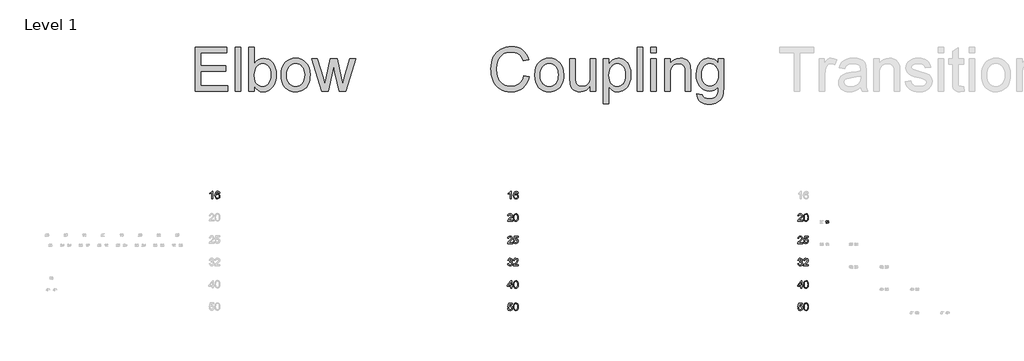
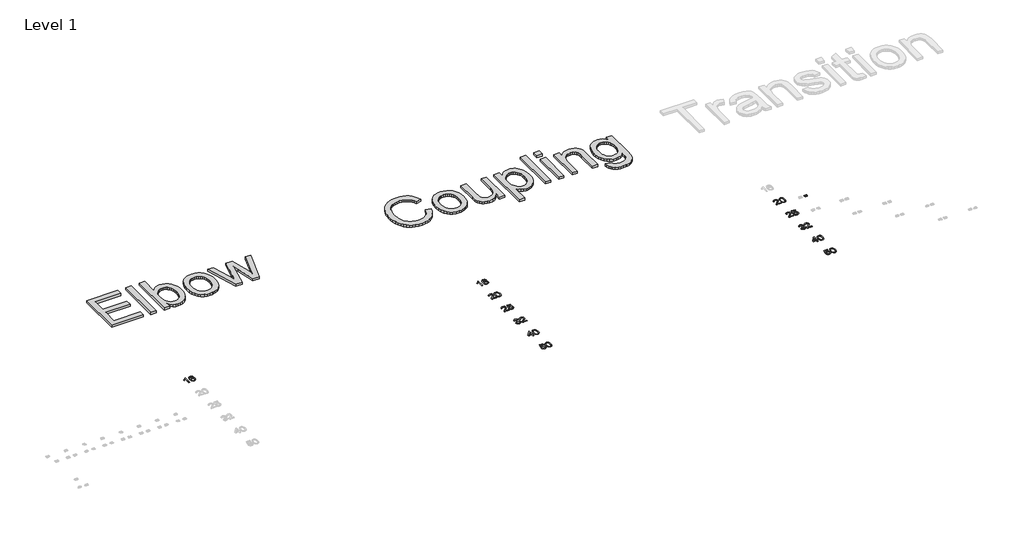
# One storey, part 39 of 58: 15 proxies.
"""IFC4 building model written with IfcOpenShell, lengths in millimetres."""

from ifc_helpers import new_model, si_unit, frame, origin, place, context, project, spatial, polyline, outline, extrude, element, save

model = new_model("IFC4")

# Units and contexts
model_context = context("Model", 3, world=origin())
ifc_project = project(units=[si_unit("LENGTHUNIT", "METRE", prefix="MILLI")], contexts=[model_context])

# Site, building, storey
site = spatial("IfcSite", under=ifc_project)
building = spatial("IfcBuilding", under=site)
storey = spatial("IfcBuildingStorey", under=building, Name="Level 1", Elevation=27.3876384)

# Proxies
placement = place(None, origin())
element("IfcBuildingElementProxy", 1, Name="100mm Arial", ObjectType="100mm Arial", at=placement, inside=storey, context=model_context, shape_type="SweptSolid", body=[
    extrude(outline(polyline([(21091.5703727, 30140.2967064), (21079.0133339, 30140.2967064), (21079.0133339, 30218.5819949), (21067.1184827, 30210.1084463), (21053.8992564, 30203.7686133), (21053.8992564, 30215.638939), (21072.3056189, 30227.3866373), (21083.4769688, 30240.7530165), (21091.5703727, 30240.7530165), (21091.5703727, 30140.2967064)])), frame((0.0, 0.0, 27.3876384), z_axis=(0.0, 0.0, 1.0), x_axis=(1.0, 0.0, 0.0)), (0.0, 0.0, 1.0), 2.0),
    extrude(outline(polyline([(21185.7481635, 30214.0693091), (21173.1911247, 30212.4996793), (21168.4331842, 30222.9720534), (21155.85162, 30228.1959777), (21144.5208545, 30225.1548199), (21135.949204, 30213.7382153), (21132.3807487, 30191.3587273), (21143.4539967, 30201.3773803), (21157.1759952, 30204.65153), (21168.7765407, 30202.4135812), (21178.5131509, 30195.6997348), (21185.1166327, 30185.4419585), (21187.3177933, 30172.5722201), (21183.1729895, 30155.2449781), (21171.7686476, 30142.9822449), (21155.3120597, 30138.7270765), (21141.0658295, 30141.5475051), (21129.7197356, 30150.008791), (21122.2977163, 30164.9448), (21119.8237099, 30187.189398), (21122.5705621, 30212.1992423), (21130.8111188, 30229.2996237), (21142.0621765, 30237.8896683), (21156.6364349, 30240.7530165), (21167.6545007, 30238.9810516), (21176.4775372, 30233.6651567), (21182.6579547, 30225.2222649), (21185.7481635, 30214.0693091)]), holes=[polyline([(21132.3807487, 30172.7684238), (21135.2870164, 30161.8913795), (21143.0125383, 30153.9941793), (21154.3310411, 30151.2841153), (21162.617583, 30152.6881982), (21169.13216, 30156.9004471), (21173.3536059, 30163.522323), (21174.7607545, 30172.1552871), (21173.372, 30180.4418291), (21169.2057364, 30186.7602023), (21162.5807948, 30190.760919), (21153.8160063, 30192.0944913), (21138.6224799, 30186.7602023), (21133.9411815, 30180.5951132), (21132.3807487, 30172.7684238)])]), frame((0.0, 0.0, 27.3876384), z_axis=(0.0, 0.0, 1.0), x_axis=(1.0, 0.0, 0.0)), (0.0, 0.0, 1.0), 2.0),
])
element("IfcBuildingElementProxy", 2, Name="100mm Arial", ObjectType="100mm Arial", at=placement, inside=storey, context=model_context, shape_type="SweptSolid", body=[
    extrude(outline(polyline([(21108.836301, 29852.8537451), (21108.836301, 29840.2967064), (21042.9118475, 29840.2967064), (21044.2607481, 29848.954196), (21051.8881681, 29862.2837869), (21067.6089921, 29876.8396512), (21089.2895043, 29897.759874), (21094.7096324, 29911.9846445), (21089.5960726, 29923.4993509), (21076.2419562, 29928.1959777), (21062.3237541, 29923.6097155), (21057.0385161, 29910.9300494), (21044.4814773, 29912.4996793), (21047.5257008, 29924.6459165), (21054.1077228, 29933.5180039), (21063.8841869, 29938.9442634), (21076.5117363, 29940.7530165), (21089.2312563, 29938.7419283), (21098.9893263, 29932.7086635), (21105.1973349, 29923.6955547), (21107.2666711, 29912.7449339), (21105.0348537, 29900.83782), (21097.6159001, 29888.5260359), (21079.6264706, 29871.3214213), (21065.1809709, 29859.2426291), (21059.5155882, 29852.8537451), (21108.836301, 29852.8537451)])), frame((0.0, 0.0, 27.3876384), z_axis=(0.0, 0.0, 1.0), x_axis=(1.0, 0.0, 0.0)), (0.0, 0.0, 1.0), 2.0),
    extrude(outline(polyline([(21121.3933398, 29889.715521), (21125.0844224, 29918.6187831), (21136.0473059, 29935.2838375), (21154.3555665, 29940.7530165), (21169.0217954, 29937.5156549), (21179.150813, 29928.183715), (21185.0369249, 29913.3212824), (21187.3177933, 29889.715521), (21183.6634988, 29860.9348863), (21172.7374036, 29844.2330437), (21164.5060439, 29840.1035683), (21154.3555665, 29838.7270765), (21141.3080184, 29841.1183095), (21131.39973, 29848.2920084), (21123.8949373, 29865.2820252), (21121.3933398, 29889.715521)]), holes=[polyline([(21133.9503785, 29889.7400465), (21135.4219065, 29869.987849), (21139.8364905, 29858.555916), (21146.4093154, 29853.1020655), (21154.3555665, 29851.2841153), (21162.3018176, 29853.1081968), (21168.8746426, 29858.5804415), (21173.2892265, 29870.0185059), (21174.7607545, 29889.7400465), (21173.3382775, 29909.0477199), (21169.0708463, 29920.5685577), (21162.5102841, 29926.2891227), (21154.2084137, 29928.1959777), (21146.3480018, 29926.5159833), (21140.0326942, 29921.476), (21135.4709574, 29909.2377923), (21133.9503785, 29889.7400465)])]), frame((0.0, 0.0, 27.3876384), z_axis=(0.0, 0.0, 1.0), x_axis=(1.0, 0.0, 0.0)), (0.0, 0.0, 1.0), 2.0),
])
element("IfcBuildingElementProxy", 3, Name="100mm Arial", ObjectType="100mm Arial", at=placement, inside=storey, context=model_context, shape_type="SweptSolid", body=[
    extrude(outline(polyline([(21108.836301, 29552.8537451), (21108.836301, 29540.2967064), (21042.9118475, 29540.2967064), (21044.2607481, 29548.954196), (21051.8881681, 29562.2837869), (21067.6089921, 29576.8396512), (21089.2895043, 29597.759874), (21094.7096324, 29611.9846445), (21089.5960726, 29623.4993509), (21076.2419562, 29628.1959777), (21062.3237541, 29623.6097155), (21057.0385161, 29610.9300494), (21044.4814773, 29612.4996793), (21047.5257008, 29624.6459165), (21054.1077228, 29633.5180039), (21063.8841869, 29638.9442634), (21076.5117363, 29640.7530165), (21089.2312563, 29638.7419283), (21098.9893263, 29632.7086635), (21105.1973349, 29623.6955547), (21107.2666711, 29612.7449339), (21105.0348537, 29600.83782), (21097.6159001, 29588.5260359), (21079.6264706, 29571.3214213), (21065.1809709, 29559.2426291), (21059.5155882, 29552.8537451), (21108.836301, 29552.8537451)])), frame((0.0, 0.0, 27.3876384), z_axis=(0.0, 0.0, 1.0), x_axis=(1.0, 0.0, 0.0)), (0.0, 0.0, 1.0), 2.0),
    extrude(outline(polyline([(21121.3933398, 29566.9804137), (21133.9503785, 29568.5500436), (21140.2779488, 29555.6128601), (21153.3990733, 29551.2841153), (21162.3999195, 29552.7893658), (21169.1444227, 29557.3051173), (21173.3566716, 29564.3102036), (21174.7607545, 29573.2834586), (21169.500042, 29588.1949421), (21162.8934945, 29592.2968264), (21153.5952771, 29593.6641211), (21142.57108, 29591.4813546), (21135.5200084, 29585.8159719), (21122.9629696, 29587.3856017), (21133.9503785, 29639.1833867), (21182.6089038, 29639.1833867), (21182.6089038, 29626.6263479), (21144.1039216, 29626.6263479), (21138.7328445, 29598.9616219), (21147.7030338, 29604.4062754), (21157.1024188, 29606.2211599), (21168.8347887, 29603.9709484), (21178.5744645, 29597.2203137), (21185.1319611, 29586.9318806), (21187.3177933, 29574.0682735), (21185.3496246, 29561.5112347), (21179.4451186, 29550.7690805), (21168.1388786, 29541.7375775), (21153.3500224, 29538.7270765), (21141.0167785, 29540.6615227), (21131.1912636, 29546.4648611), (21124.4559574, 29555.4626416), (21121.3933398, 29566.9804137)])), frame((0.0, 0.0, 27.3876384), z_axis=(0.0, 0.0, 1.0), x_axis=(1.0, 0.0, 0.0)), (0.0, 0.0, 1.0), 2.0),
])
element("IfcBuildingElementProxy", 4, Name="100mm Arial", ObjectType="100mm Arial", at=placement, inside=storey, context=model_context, shape_type="SweptSolid", body=[
    extrude(outline(polyline([(21044.4814773, 29266.9804137), (21057.0385161, 29268.5500436), (21063.9669603, 29255.3308172), (21076.9286693, 29251.2841153), (21085.537108, 29252.6759355), (21092.1835093, 29256.8513961), (21097.8488921, 29270.6347082), (21092.2325603, 29283.6209427), (21077.9587389, 29288.7590279), (21069.1540964, 29287.3856017), (21070.552048, 29299.9426405), (21072.5631363, 29299.7954877), (21086.8124322, 29303.4007313), (21091.55811, 29307.9747307), (21093.1400025, 29314.486242), (21088.5537403, 29324.3086913), (21076.7324655, 29328.1959777), (21064.764038, 29324.2719031), (21058.6081459, 29312.4996793), (21046.0511071, 29314.0693091), (21049.7483212, 29325.3448923), (21056.3272775, 29333.7632586), (21065.3281237, 29339.005577), (21076.2910072, 29340.7530165), (21091.4354826, 29337.3071885), (21102.0304841, 29327.8894094), (21105.6970413, 29315.222006), (21102.2144251, 29303.6459859), (21091.9137292, 29295.3318528), (21105.5989394, 29286.7479396), (21110.4059308, 29270.413979), (21108.0024351, 29258.1757713), (21100.791948, 29247.9486519), (21089.9087723, 29241.0324703), (21076.4872109, 29238.7270765), (21064.347105, 29240.6952452), (21054.4633421, 29246.5997512), (21047.5900802, 29255.6312542), (21044.4814773, 29266.9804137)])), frame((0.0, 0.0, 27.3876384), z_axis=(0.0, 0.0, 1.0), x_axis=(1.0, 0.0, 0.0)), (0.0, 0.0, 1.0), 2.0),
    extrude(outline(polyline([(21185.7481635, 29252.8537451), (21185.7481635, 29240.2967064), (21119.8237099, 29240.2967064), (21121.1726106, 29248.954196), (21128.8000306, 29262.2837869), (21144.5208545, 29276.8396512), (21166.2013668, 29297.759874), (21171.6214948, 29311.9846445), (21166.5079351, 29323.4993509), (21153.1538187, 29328.1959777), (21139.2356165, 29323.6097155), (21133.9503785, 29310.9300494), (21121.3933398, 29312.4996793), (21124.4375633, 29324.6459165), (21131.0195853, 29333.5180039), (21140.7960493, 29338.9442634), (21153.4235988, 29340.7530165), (21166.1431188, 29338.7419283), (21175.9011887, 29332.7086635), (21182.1091974, 29323.6955547), (21184.1785336, 29312.7449339), (21181.9467162, 29300.83782), (21174.5277626, 29288.5260359), (21156.538333, 29271.3214213), (21142.0928334, 29259.2426291), (21136.4274506, 29252.8537451), (21185.7481635, 29252.8537451)])), frame((0.0, 0.0, 27.3876384), z_axis=(0.0, 0.0, 1.0), x_axis=(1.0, 0.0, 0.0)), (0.0, 0.0, 1.0), 2.0),
])
element("IfcBuildingElementProxy", 5, Name="100mm Arial", ObjectType="100mm Arial", at=placement, inside=storey, context=model_context, shape_type="SweptSolid", body=[
    extrude(outline(polyline([(21085.2918533, 28940.2967064), (21085.2918533, 28963.841154), (21039.7725878, 28963.841154), (21039.7725878, 28976.3981928), (21088.431113, 29039.1833867), (21097.8488921, 29039.1833867), (21097.8488921, 28976.3981928), (21110.4059308, 28976.3981928), (21110.4059308, 28963.841154), (21097.8488921, 28963.841154), (21097.8488921, 28940.2967064), (21085.2918533, 28940.2967064)]), holes=[polyline([(21085.2918533, 28976.3981928), (21085.2918533, 29015.1974806), (21055.2236316, 28976.3981928), (21085.2918533, 28976.3981928)])]), frame((0.0, 0.0, 27.3876384), z_axis=(0.0, 0.0, 1.0), x_axis=(1.0, 0.0, 0.0)), (0.0, 0.0, 1.0), 2.0),
    extrude(outline(polyline([(21121.3933398, 28989.715521), (21125.0844224, 29018.6187831), (21136.0473059, 29035.2838375), (21154.3555665, 29040.7530165), (21169.0217954, 29037.5156549), (21179.150813, 29028.183715), (21185.0369249, 29013.3212824), (21187.3177933, 28989.715521), (21183.6634988, 28960.9348863), (21172.7374036, 28944.2330437), (21164.5060439, 28940.1035683), (21154.3555665, 28938.7270765), (21141.3080184, 28941.1183095), (21131.39973, 28948.2920084), (21123.8949373, 28965.2820252), (21121.3933398, 28989.715521)]), holes=[polyline([(21133.9503785, 28989.7400465), (21135.4219065, 28969.987849), (21139.8364905, 28958.555916), (21146.4093154, 28953.1020655), (21154.3555665, 28951.2841153), (21162.3018176, 28953.1081968), (21168.8746426, 28958.5804415), (21173.2892265, 28970.0185059), (21174.7607545, 28989.7400465), (21173.3382775, 29009.0477199), (21169.0708463, 29020.5685577), (21162.5102841, 29026.2891227), (21154.2084137, 29028.1959777), (21146.3480018, 29026.5159833), (21140.0326942, 29021.476), (21135.4709574, 29009.2377923), (21133.9503785, 28989.7400465)])]), frame((0.0, 0.0, 27.3876384), z_axis=(0.0, 0.0, 1.0), x_axis=(1.0, 0.0, 0.0)), (0.0, 0.0, 1.0), 2.0),
])
element("IfcBuildingElementProxy", 6, Name="100mm Arial", ObjectType="100mm Arial", at=placement, inside=storey, context=model_context, shape_type="SweptSolid", body=[
    extrude(outline(polyline([(21044.4814773, 28666.9804137), (21057.0385161, 28668.5500436), (21063.3660864, 28655.6128601), (21076.4872109, 28651.2841153), (21085.488057, 28652.7893658), (21092.2325603, 28657.3051173), (21096.4448091, 28664.3102036), (21097.8488921, 28673.2834586), (21092.5881795, 28688.1949421), (21085.981632, 28692.2968264), (21076.6834146, 28693.6641211), (21065.6592175, 28691.4813546), (21058.6081459, 28685.8159719), (21046.0511071, 28687.3856017), (21057.0385161, 28739.1833867), (21105.6970413, 28739.1833867), (21105.6970413, 28726.6263479), (21067.1920591, 28726.6263479), (21061.820982, 28698.9616219), (21070.7911713, 28704.4062754), (21080.1905563, 28706.2211599), (21091.9229263, 28703.9709484), (21101.6626021, 28697.2203137), (21108.2200987, 28686.9318806), (21110.4059308, 28674.0682735), (21108.4377622, 28661.5112347), (21102.5332561, 28650.7690805), (21091.2270162, 28641.7375775), (21076.43816, 28638.7270765), (21064.1049161, 28640.6615227), (21054.2794011, 28646.4648611), (21047.5440949, 28655.4626416), (21044.4814773, 28666.9804137)])), frame((0.0, 0.0, 27.3876384), z_axis=(0.0, 0.0, 1.0), x_axis=(1.0, 0.0, 0.0)), (0.0, 0.0, 1.0), 2.0),
    extrude(outline(polyline([(21121.3933398, 28689.715521), (21125.0844224, 28718.6187831), (21136.0473059, 28735.2838375), (21154.3555665, 28740.7530165), (21169.0217954, 28737.5156549), (21179.150813, 28728.183715), (21185.0369249, 28713.3212824), (21187.3177933, 28689.715521), (21183.6634988, 28660.9348863), (21172.7374036, 28644.2330437), (21164.5060439, 28640.1035683), (21154.3555665, 28638.7270765), (21141.3080184, 28641.1183095), (21131.39973, 28648.2920084), (21123.8949373, 28665.2820252), (21121.3933398, 28689.715521)]), holes=[polyline([(21133.9503785, 28689.7400465), (21135.4219065, 28669.987849), (21139.8364905, 28658.555916), (21146.4093154, 28653.1020655), (21154.3555665, 28651.2841153), (21162.3018176, 28653.1081968), (21168.8746426, 28658.5804415), (21173.2892265, 28670.0185059), (21174.7607545, 28689.7400465), (21173.3382775, 28709.0477199), (21169.0708463, 28720.5685577), (21162.5102841, 28726.2891227), (21154.2084137, 28728.1959777), (21146.3480018, 28726.5159833), (21140.0326942, 28721.476), (21135.4709574, 28709.2377923), (21133.9503785, 28689.7400465)])]), frame((0.0, 0.0, 27.3876384), z_axis=(0.0, 0.0, 1.0), x_axis=(1.0, 0.0, 0.0)), (0.0, 0.0, 1.0), 2.0),
])
element("IfcBuildingElementProxy", 7, Name="100mm Arial", ObjectType="100mm Arial", at=placement, inside=storey, context=model_context, shape_type="SweptSolid", body=[
    extrude(outline(polyline([(25008.836301, 29852.8537451), (25008.836301, 29840.2967064), (24942.9118475, 29840.2967064), (24944.2607481, 29848.954196), (24951.8881681, 29862.2837869), (24967.6089921, 29876.8396512), (24989.2895043, 29897.759874), (24994.7096324, 29911.9846445), (24989.5960726, 29923.4993509), (24976.2419562, 29928.1959777), (24962.3237541, 29923.6097155), (24957.0385161, 29910.9300494), (24944.4814773, 29912.4996793), (24947.5257008, 29924.6459165), (24954.1077228, 29933.5180039), (24963.8841869, 29938.9442634), (24976.5117363, 29940.7530165), (24989.2312563, 29938.7419283), (24998.9893263, 29932.7086635), (25005.1973349, 29923.6955547), (25007.2666711, 29912.7449339), (25005.0348537, 29900.83782), (24997.6159001, 29888.5260359), (24979.6264706, 29871.3214213), (24965.1809709, 29859.2426291), (24959.5155882, 29852.8537451), (25008.836301, 29852.8537451)])), frame((0.0, 0.0, 27.3876384), z_axis=(0.0, 0.0, 1.0), x_axis=(1.0, 0.0, 0.0)), (0.0, 0.0, 1.0), 2.0),
    extrude(outline(polyline([(25021.3933398, 29889.715521), (25025.0844224, 29918.6187831), (25036.0473059, 29935.2838375), (25054.3555665, 29940.7530165), (25069.0217954, 29937.5156549), (25079.150813, 29928.183715), (25085.0369249, 29913.3212824), (25087.3177933, 29889.715521), (25083.6634988, 29860.9348863), (25072.7374036, 29844.2330437), (25064.5060439, 29840.1035683), (25054.3555665, 29838.7270765), (25041.3080184, 29841.1183095), (25031.39973, 29848.2920084), (25023.8949373, 29865.2820252), (25021.3933398, 29889.715521)]), holes=[polyline([(25033.9503785, 29889.7400465), (25035.4219065, 29869.987849), (25039.8364905, 29858.555916), (25046.4093154, 29853.1020655), (25054.3555665, 29851.2841153), (25062.3018176, 29853.1081968), (25068.8746426, 29858.5804415), (25073.2892265, 29870.0185059), (25074.7607545, 29889.7400465), (25073.3382775, 29909.0477199), (25069.0708463, 29920.5685577), (25062.5102841, 29926.2891227), (25054.2084137, 29928.1959777), (25046.3480018, 29926.5159833), (25040.0326942, 29921.476), (25035.4709574, 29909.2377923), (25033.9503785, 29889.7400465)])]), frame((0.0, 0.0, 27.3876384), z_axis=(0.0, 0.0, 1.0), x_axis=(1.0, 0.0, 0.0)), (0.0, 0.0, 1.0), 2.0),
])
element("IfcBuildingElementProxy", 8, Name="100mm Arial", ObjectType="100mm Arial", at=placement, inside=storey, context=model_context, shape_type="SweptSolid", body=[
    extrude(outline(polyline([(25008.836301, 29552.8537451), (25008.836301, 29540.2967064), (24942.9118475, 29540.2967064), (24944.2607481, 29548.954196), (24951.8881681, 29562.2837869), (24967.6089921, 29576.8396512), (24989.2895043, 29597.759874), (24994.7096324, 29611.9846445), (24989.5960726, 29623.4993509), (24976.2419562, 29628.1959777), (24962.3237541, 29623.6097155), (24957.0385161, 29610.9300494), (24944.4814773, 29612.4996793), (24947.5257008, 29624.6459165), (24954.1077228, 29633.5180039), (24963.8841869, 29638.9442634), (24976.5117363, 29640.7530165), (24989.2312563, 29638.7419283), (24998.9893263, 29632.7086635), (25005.1973349, 29623.6955547), (25007.2666711, 29612.7449339), (25005.0348537, 29600.83782), (24997.6159001, 29588.5260359), (24979.6264706, 29571.3214213), (24965.1809709, 29559.2426291), (24959.5155882, 29552.8537451), (25008.836301, 29552.8537451)])), frame((0.0, 0.0, 27.3876384), z_axis=(0.0, 0.0, 1.0), x_axis=(1.0, 0.0, 0.0)), (0.0, 0.0, 1.0), 2.0),
    extrude(outline(polyline([(25021.3933398, 29566.9804137), (25033.9503785, 29568.5500436), (25040.2779488, 29555.6128601), (25053.3990733, 29551.2841153), (25062.3999195, 29552.7893658), (25069.1444227, 29557.3051173), (25073.3566716, 29564.3102036), (25074.7607545, 29573.2834586), (25069.500042, 29588.1949421), (25062.8934945, 29592.2968264), (25053.5952771, 29593.6641211), (25042.57108, 29591.4813546), (25035.5200084, 29585.8159719), (25022.9629696, 29587.3856017), (25033.9503785, 29639.1833867), (25082.6089038, 29639.1833867), (25082.6089038, 29626.6263479), (25044.1039216, 29626.6263479), (25038.7328445, 29598.9616219), (25047.7030338, 29604.4062754), (25057.1024188, 29606.2211599), (25068.8347887, 29603.9709484), (25078.5744645, 29597.2203137), (25085.1319611, 29586.9318806), (25087.3177933, 29574.0682735), (25085.3496246, 29561.5112347), (25079.4451186, 29550.7690805), (25068.1388786, 29541.7375775), (25053.3500224, 29538.7270765), (25041.0167785, 29540.6615227), (25031.1912636, 29546.4648611), (25024.4559574, 29555.4626416), (25021.3933398, 29566.9804137)])), frame((0.0, 0.0, 27.3876384), z_axis=(0.0, 0.0, 1.0), x_axis=(1.0, 0.0, 0.0)), (0.0, 0.0, 1.0), 2.0),
])
element("IfcBuildingElementProxy", 9, Name="100mm Arial", ObjectType="100mm Arial", at=placement, inside=storey, context=model_context, shape_type="SweptSolid", body=[
    extrude(outline(polyline([(24944.4814773, 29266.9804137), (24957.0385161, 29268.5500436), (24963.9669603, 29255.3308172), (24976.9286693, 29251.2841153), (24985.537108, 29252.6759355), (24992.1835093, 29256.8513961), (24997.8488921, 29270.6347082), (24992.2325603, 29283.6209427), (24977.9587389, 29288.7590279), (24969.1540964, 29287.3856017), (24970.552048, 29299.9426405), (24972.5631363, 29299.7954877), (24986.8124322, 29303.4007313), (24991.55811, 29307.9747307), (24993.1400025, 29314.486242), (24988.5537403, 29324.3086913), (24976.7324655, 29328.1959777), (24964.764038, 29324.2719031), (24958.6081459, 29312.4996793), (24946.0511071, 29314.0693091), (24949.7483212, 29325.3448923), (24956.3272775, 29333.7632586), (24965.3281237, 29339.005577), (24976.2910072, 29340.7530165), (24991.4354826, 29337.3071885), (25002.0304841, 29327.8894094), (25005.6970413, 29315.222006), (25002.2144251, 29303.6459859), (24991.9137292, 29295.3318528), (25005.5989394, 29286.7479396), (25010.4059308, 29270.413979), (25008.0024351, 29258.1757713), (25000.791948, 29247.9486519), (24989.9087723, 29241.0324703), (24976.4872109, 29238.7270765), (24964.347105, 29240.6952452), (24954.4633421, 29246.5997512), (24947.5900802, 29255.6312542), (24944.4814773, 29266.9804137)])), frame((0.0, 0.0, 27.3876384), z_axis=(0.0, 0.0, 1.0), x_axis=(1.0, 0.0, 0.0)), (0.0, 0.0, 1.0), 2.0),
    extrude(outline(polyline([(25085.7481635, 29252.8537451), (25085.7481635, 29240.2967064), (25019.8237099, 29240.2967064), (25021.1726106, 29248.954196), (25028.8000306, 29262.2837869), (25044.5208545, 29276.8396512), (25066.2013668, 29297.759874), (25071.6214948, 29311.9846445), (25066.5079351, 29323.4993509), (25053.1538187, 29328.1959777), (25039.2356165, 29323.6097155), (25033.9503785, 29310.9300494), (25021.3933398, 29312.4996793), (25024.4375633, 29324.6459165), (25031.0195853, 29333.5180039), (25040.7960493, 29338.9442634), (25053.4235988, 29340.7530165), (25066.1431188, 29338.7419283), (25075.9011887, 29332.7086635), (25082.1091974, 29323.6955547), (25084.1785336, 29312.7449339), (25081.9467162, 29300.83782), (25074.5277626, 29288.5260359), (25056.538333, 29271.3214213), (25042.0928334, 29259.2426291), (25036.4274506, 29252.8537451), (25085.7481635, 29252.8537451)])), frame((0.0, 0.0, 27.3876384), z_axis=(0.0, 0.0, 1.0), x_axis=(1.0, 0.0, 0.0)), (0.0, 0.0, 1.0), 2.0),
])
element("IfcBuildingElementProxy", 10, Name="100mm Arial", ObjectType="100mm Arial", at=placement, inside=storey, context=model_context, shape_type="SweptSolid", body=[
    extrude(outline(polyline([(24985.2918533, 28940.2967064), (24985.2918533, 28963.841154), (24939.7725878, 28963.841154), (24939.7725878, 28976.3981928), (24988.431113, 29039.1833867), (24997.8488921, 29039.1833867), (24997.8488921, 28976.3981928), (25010.4059308, 28976.3981928), (25010.4059308, 28963.841154), (24997.8488921, 28963.841154), (24997.8488921, 28940.2967064), (24985.2918533, 28940.2967064)]), holes=[polyline([(24985.2918533, 28976.3981928), (24985.2918533, 29015.1974806), (24955.2236316, 28976.3981928), (24985.2918533, 28976.3981928)])]), frame((0.0, 0.0, 27.3876384), z_axis=(0.0, 0.0, 1.0), x_axis=(1.0, 0.0, 0.0)), (0.0, 0.0, 1.0), 2.0),
    extrude(outline(polyline([(25021.3933398, 28989.715521), (25025.0844224, 29018.6187831), (25036.0473059, 29035.2838375), (25054.3555665, 29040.7530165), (25069.0217954, 29037.5156549), (25079.150813, 29028.183715), (25085.0369249, 29013.3212824), (25087.3177933, 28989.715521), (25083.6634988, 28960.9348863), (25072.7374036, 28944.2330437), (25064.5060439, 28940.1035683), (25054.3555665, 28938.7270765), (25041.3080184, 28941.1183095), (25031.39973, 28948.2920084), (25023.8949373, 28965.2820252), (25021.3933398, 28989.715521)]), holes=[polyline([(25033.9503785, 28989.7400465), (25035.4219065, 28969.987849), (25039.8364905, 28958.555916), (25046.4093154, 28953.1020655), (25054.3555665, 28951.2841153), (25062.3018176, 28953.1081968), (25068.8746426, 28958.5804415), (25073.2892265, 28970.0185059), (25074.7607545, 28989.7400465), (25073.3382775, 29009.0477199), (25069.0708463, 29020.5685577), (25062.5102841, 29026.2891227), (25054.2084137, 29028.1959777), (25046.3480018, 29026.5159833), (25040.0326942, 29021.476), (25035.4709574, 29009.2377923), (25033.9503785, 28989.7400465)])]), frame((0.0, 0.0, 27.3876384), z_axis=(0.0, 0.0, 1.0), x_axis=(1.0, 0.0, 0.0)), (0.0, 0.0, 1.0), 2.0),
])
element("IfcBuildingElementProxy", 11, Name="100mm Arial", ObjectType="100mm Arial", at=placement, inside=storey, context=model_context, shape_type="SweptSolid", body=[
    extrude(outline(polyline([(24944.4814773, 28666.9804137), (24957.0385161, 28668.5500436), (24963.3660864, 28655.6128601), (24976.4872109, 28651.2841153), (24985.488057, 28652.7893658), (24992.2325603, 28657.3051173), (24996.4448091, 28664.3102036), (24997.8488921, 28673.2834586), (24992.5881795, 28688.1949421), (24985.981632, 28692.2968264), (24976.6834146, 28693.6641211), (24965.6592175, 28691.4813546), (24958.6081459, 28685.8159719), (24946.0511071, 28687.3856017), (24957.0385161, 28739.1833867), (25005.6970413, 28739.1833867), (25005.6970413, 28726.6263479), (24967.1920591, 28726.6263479), (24961.820982, 28698.9616219), (24970.7911713, 28704.4062754), (24980.1905563, 28706.2211599), (24991.9229263, 28703.9709484), (25001.6626021, 28697.2203137), (25008.2200987, 28686.9318806), (25010.4059308, 28674.0682735), (25008.4377622, 28661.5112347), (25002.5332561, 28650.7690805), (24991.2270162, 28641.7375775), (24976.43816, 28638.7270765), (24964.1049161, 28640.6615227), (24954.2794011, 28646.4648611), (24947.5440949, 28655.4626416), (24944.4814773, 28666.9804137)])), frame((0.0, 0.0, 27.3876384), z_axis=(0.0, 0.0, 1.0), x_axis=(1.0, 0.0, 0.0)), (0.0, 0.0, 1.0), 2.0),
    extrude(outline(polyline([(25021.3933398, 28689.715521), (25025.0844224, 28718.6187831), (25036.0473059, 28735.2838375), (25054.3555665, 28740.7530165), (25069.0217954, 28737.5156549), (25079.150813, 28728.183715), (25085.0369249, 28713.3212824), (25087.3177933, 28689.715521), (25083.6634988, 28660.9348863), (25072.7374036, 28644.2330437), (25064.5060439, 28640.1035683), (25054.3555665, 28638.7270765), (25041.3080184, 28641.1183095), (25031.39973, 28648.2920084), (25023.8949373, 28665.2820252), (25021.3933398, 28689.715521)]), holes=[polyline([(25033.9503785, 28689.7400465), (25035.4219065, 28669.987849), (25039.8364905, 28658.555916), (25046.4093154, 28653.1020655), (25054.3555665, 28651.2841153), (25062.3018176, 28653.1081968), (25068.8746426, 28658.5804415), (25073.2892265, 28670.0185059), (25074.7607545, 28689.7400465), (25073.3382775, 28709.0477199), (25069.0708463, 28720.5685577), (25062.5102841, 28726.2891227), (25054.2084137, 28728.1959777), (25046.3480018, 28726.5159833), (25040.0326942, 28721.476), (25035.4709574, 28709.2377923), (25033.9503785, 28689.7400465)])]), frame((0.0, 0.0, 27.3876384), z_axis=(0.0, 0.0, 1.0), x_axis=(1.0, 0.0, 0.0)), (0.0, 0.0, 1.0), 2.0),
])
element("IfcBuildingElementProxy", 12, Name="100mm Arial", ObjectType="100mm Arial", at=placement, inside=storey, context=model_context, shape_type="SweptSolid", body=[
    extrude(outline(polyline([(17080.2047364, 30143.3548263), (17067.6476976, 30143.3548263), (17067.6476976, 30221.6401149), (17055.7528464, 30213.1665663), (17042.5336201, 30206.8267332), (17042.5336201, 30218.6970589), (17060.9399826, 30230.4447573), (17072.1113325, 30243.8111365), (17080.2047364, 30243.8111365), (17080.2047364, 30143.3548263)])), frame((0.0, 0.0, 27.3876384), z_axis=(0.0, 0.0, 1.0), x_axis=(1.0, 0.0, 0.0)), (0.0, 0.0, 1.0), 2.0),
    extrude(outline(polyline([(17174.3825271, 30217.1274291), (17161.8254884, 30215.5577992), (17157.0675479, 30226.0301734), (17144.4859837, 30231.2540977), (17133.1552182, 30228.2129399), (17124.5835677, 30216.7963353), (17121.0151124, 30194.4168472), (17132.0883604, 30204.4355002), (17145.8103588, 30207.70965), (17157.4109044, 30205.4717012), (17167.1475146, 30198.7578548), (17173.7509964, 30188.5000785), (17175.952157, 30175.63034), (17171.8073532, 30158.303098), (17160.4030113, 30146.0403649), (17143.9464234, 30141.7851965), (17129.7001931, 30144.6056251), (17118.3540993, 30153.066911), (17110.93208, 30168.00292), (17108.4580736, 30190.247518), (17111.2049258, 30215.2573623), (17119.4454825, 30232.3577437), (17130.6965402, 30240.9477883), (17145.2707986, 30243.8111365), (17156.2888643, 30242.0391715), (17165.1119009, 30236.7232767), (17171.2923184, 30228.2803849), (17174.3825271, 30217.1274291)]), holes=[polyline([(17121.0151124, 30175.8265438), (17123.9213801, 30164.9494994), (17131.646902, 30157.0522993), (17142.9654048, 30154.3422352), (17151.2519467, 30155.7463182), (17157.7665237, 30159.958567), (17161.9879696, 30166.5804429), (17163.3951182, 30175.2134071), (17162.0063637, 30183.499949), (17157.8401001, 30189.8183223), (17151.2151585, 30193.819039), (17142.45037, 30195.1526112), (17127.2568436, 30189.8183223), (17122.5755452, 30183.6532332), (17121.0151124, 30175.8265438)])]), frame((0.0, 0.0, 27.3876384), z_axis=(0.0, 0.0, 1.0), x_axis=(1.0, 0.0, 0.0)), (0.0, 0.0, 1.0), 2.0),
])
element("IfcBuildingElementProxy", 13, Name="30mm Arial", ObjectType="30mm Arial", at=placement, inside=storey, context=model_context, shape_type="SweptSolid", body=[
    extrude(outline(polyline([(25329.7331607, 29815.6583057), (25325.9660491, 29815.6583057), (25325.9660491, 29839.1438923), (25322.3975937, 29836.6018277), (25318.4318258, 29834.6998778), (25318.4318258, 29838.2609755), (25323.9537345, 29841.785285), (25327.3051395, 29845.7951988), (25329.7331607, 29845.7951988), (25329.7331607, 29815.6583057)])), frame((0.0, 0.0, 27.3876384), z_axis=(0.0, 0.0, 1.0), x_axis=(1.0, 0.0, 0.0)), (0.0, 0.0, 1.0), 2.0),
    extrude(outline(polyline([(25357.9864979, 29837.7900866), (25354.2193863, 29837.3191976), (25352.7920041, 29840.4609099), (25349.0175349, 29842.0280872), (25345.6183052, 29841.1157398), (25343.0468101, 29837.6907584), (25341.9762735, 29830.976912), (25345.2982479, 29833.9825079), (25349.4148474, 29834.9647529), (25355.8159941, 29832.2792143), (25358.4573869, 29825.3409599), (25357.2139457, 29820.1427873), (25353.7926432, 29816.4639673), (25348.8556668, 29815.1874168), (25341.1779696, 29818.5719312), (25338.2091619, 29829.7261132), (25341.5053845, 29842.359181), (25349.2529794, 29845.7951988), (25355.20531, 29843.6688409), (25357.9864979, 29837.7900866)]), holes=[polyline([(25341.9762735, 29825.399821), (25342.8481538, 29822.1367077), (25345.1658104, 29819.7675476), (25348.5613612, 29818.9545284), (25353.0016969, 29820.639428), (25354.6902752, 29825.21588), (25353.0237698, 29829.5973545), (25348.4068508, 29831.1976412), (25343.8487928, 29829.5973545), (25341.9762735, 29825.399821)])]), frame((0.0, 0.0, 27.3876384), z_axis=(0.0, 0.0, 1.0), x_axis=(1.0, 0.0, 0.0)), (0.0, 0.0, 1.0), 2.0),
])
element("IfcBuildingElementProxy", 14, Name="600mm Arial", ObjectType="600mm Arial", at=placement, inside=storey, context=model_context, shape_type="SweptSolid", body=[
    extrude(outline(polyline([(16845.4337219, 31587.8685592), (16845.4337219, 32178.63779), (17270.0491065, 32178.63779), (17270.0491065, 32104.7916361), (16919.2798757, 32104.7916361), (16919.2798757, 31929.4070207), (17251.587568, 31929.4070207), (17251.587568, 31855.5608669), (16919.2798757, 31855.5608669), (16919.2798757, 31661.714713), (17279.2798757, 31661.714713), (17279.2798757, 31587.8685592), (16845.4337219, 31587.8685592)])), frame((0.0, 0.0, 27.3876384), z_axis=(0.0, 0.0, 1.0), x_axis=(1.0, 0.0, 0.0)), (0.0, 0.0, 1.0), 30.0),
    extrude(outline(polyline([(17380.8183372, 31587.8685592), (17380.8183372, 32178.63779), (17454.6644911, 32178.63779), (17454.6644911, 31587.8685592), (17380.8183372, 31587.8685592)])), frame((0.0, 0.0, 27.3876384), z_axis=(0.0, 0.0, 1.0), x_axis=(1.0, 0.0, 0.0)), (0.0, 0.0, 1.0), 30.0),
    extrude(outline(polyline([(17639.2798757, 31587.8685592), (17565.4337219, 31587.8685592), (17565.4337219, 32178.63779), (17639.2798757, 32178.63779), (17639.2798757, 31959.5512515), (17663.5647315, 31990.7862275), (17690.9866065, 32013.0969246), (17721.5455007, 32026.4833428), (17755.2414142, 32030.9454823), (17793.2822796, 32026.9250496), (17829.2317988, 32014.8637515), (17861.0346834, 31995.5187996), (17886.6356449, 31969.6474053), (17906.7017507, 31937.5019727), (17921.900068, 31899.3349053), (17931.4733853, 31856.7327419), (17934.6644911, 31811.2820207), (17931.360705, 31758.8361073), (17921.4493469, 31712.70029), (17904.9304166, 31672.8745688), (17881.8039142, 31639.3589438), (17854.0439983, 31612.793439), (17823.6248276, 31593.8180784), (17790.5464022, 31582.4328621), (17754.8087219, 31578.63779), (17720.0040344, 31583.5326217), (17689.1476642, 31598.2171169), (17662.2396113, 31622.6912755), (17639.2798757, 31656.9550977), (17639.2798757, 31587.8685592)]), holes=[polyline([(17639.2798757, 31807.8204823), (17644.3279526, 31746.2339438), (17650.6380488, 31722.9046169), (17659.4721834, 31704.5512515), (17677.3658132, 31681.7718044), (17698.1620872, 31665.5007707), (17721.8610055, 31655.7381505), (17748.462568, 31652.4839438), (17770.5479046, 31654.8817803), (17791.0827603, 31662.07529), (17810.0671353, 31674.0644727), (17827.5010296, 31690.8493284), (17842.0773517, 31712.3847852), (17852.4890103, 31738.6257707), (17858.7360055, 31769.5722852), (17860.8183372, 31805.2243284), (17858.8216425, 31841.5524534), (17852.8315584, 31872.7964438), (17842.8480848, 31898.9562996), (17828.8712219, 31920.0320207), (17812.06383, 31936.2489678), (17793.5887699, 31947.8325015), (17773.4460416, 31954.7826217), (17751.6356449, 31957.0993284), (17729.5503084, 31954.7014919), (17709.0154526, 31947.5079823), (17690.0310776, 31935.5187996), (17672.5971834, 31918.7339438), (17658.0208613, 31897.4148332), (17647.6092026, 31871.8228861), (17641.3622074, 31841.9581025), (17639.2798757, 31807.8204823)])]), frame((0.0, 0.0, 27.3876384), z_axis=(0.0, 0.0, 1.0), x_axis=(1.0, 0.0, 0.0)), (0.0, 0.0, 1.0), 30.0),
    extrude(outline(polyline([(17999.2798757, 31804.7916361), (18003.2732651, 31860.9785352), (18015.2534334, 31909.3950015), (18035.2203805, 31950.0410352), (18063.1741065, 31982.9166361), (18091.3171353, 32003.9292563), (18122.3808372, 32018.9382707), (18156.3652122, 32027.9436794), (18193.2702603, 32030.9454823), (18234.0109454, 32027.2901337), (18270.8483853, 32016.324088), (18303.78258, 31998.0473453), (18332.8135296, 31972.4599053), (18356.5079406, 31940.4271529), (18373.4325199, 31902.8144727), (18383.5872675, 31859.6218645), (18386.9721834, 31810.8493284), (18385.4757892, 31771.3210832), (18380.9866065, 31736.245963), (18373.5046353, 31705.6239678), (18363.0298757, 31679.4550977), (18349.6930368, 31656.8514318), (18333.6248276, 31636.9250496), (18314.8252483, 31619.675951), (18293.2942988, 31605.1041361), (18269.8703204, 31593.5251097), (18245.3916546, 31585.2543765), (18219.8583012, 31580.2919366), (18193.2702603, 31578.63779), (18151.9346233, 31582.2796169), (18114.7546353, 31593.2050977), (18081.7302964, 31611.4142323), (18052.8616065, 31636.9070207), (18029.4195993, 31669.2507707), (18012.6753084, 31708.01279), (18002.6287339, 31753.1930784), (17999.2798757, 31804.7916361)]), holes=[polyline([(18073.1260296, 31804.9358669), (18075.2624478, 31769.1170568), (18081.6717026, 31738.1029342), (18092.353794, 31711.8934991), (18107.3087219, 31690.4887515), (18125.4998276, 31673.8616481), (18145.8904526, 31661.9851457), (18168.4805969, 31654.8592443), (18193.2702603, 31652.4839438), (18217.9337219, 31654.8727659), (18240.4337219, 31662.0392323), (18260.7702603, 31673.9833428), (18278.9433372, 31690.7050977), (18293.8982651, 31712.3216842), (18304.5803565, 31738.95029), (18310.9896113, 31770.590915), (18313.1260296, 31807.2435592), (18310.9760897, 31841.926552), (18304.5262699, 31872.1293765), (18293.7765704, 31897.8520328), (18278.7269911, 31919.0945207), (18260.486306, 31935.7216241), (18240.1632892, 31947.5981265), (18217.7579406, 31954.7240279), (18193.2702603, 31957.0993284), (18168.4805969, 31954.7330424), (18145.8904526, 31947.6341842), (18125.4998276, 31935.8027539), (18107.3087219, 31919.2387515), (18092.353794, 31897.8971049), (18081.6717026, 31871.7327419), (18075.2624478, 31840.7456626), (18073.1260296, 31804.9358669)])]), frame((0.0, 0.0, 27.3876384), z_axis=(0.0, 0.0, 1.0), x_axis=(1.0, 0.0, 0.0)), (0.0, 0.0, 1.0), 30.0),
    extrude(outline(polyline([(18542.0202603, 31587.8685592), (18410.0491065, 32021.714713), (18486.7798757, 32021.714713), (18561.6356449, 31768.589713), (18583.9914142, 31678.1570207), (18602.3087219, 31765.2724053), (18661.8760296, 32021.714713), (18749.8567988, 32021.714713), (18809.1356449, 31765.9935592), (18825.4337219, 31687.0993284), (18848.7991065, 31770.3204823), (18923.7991065, 32021.714713), (19000.8183372, 32021.714713), (18867.837568, 31587.8685592), (18778.5587219, 31587.8685592), (18721.8760296, 31842.2916361), (18705.4337219, 31921.6185592), (18632.3087219, 31587.8685592), (18542.0202603, 31587.8685592)])), frame((0.0, 0.0, 27.3876384), z_axis=(0.0, 0.0, 1.0), x_axis=(1.0, 0.0, 0.0)), (0.0, 0.0, 1.0), 30.0),
])
element("IfcBuildingElementProxy", 15, Name="600mm Arial", ObjectType="600mm Arial", at=placement, inside=storey, context=model_context, shape_type="SweptSolid", body=[
    extrude(outline(polyline([(21260.8183372, 31797.8685592), (21334.6644911, 31778.8300977), (21320.0521113, 31732.9061193), (21300.5899719, 31692.778415), (21276.2780728, 31658.4469847), (21247.1164142, 31629.9118284), (21213.7630488, 31607.4794366), (21176.8760296, 31591.4562996), (21136.4553565, 31581.8424174), (21092.5010296, 31578.63779), (21047.4694791, 31581.0626698), (21006.8459815, 31588.3373092), (20970.6305368, 31600.4617082), (20938.8231449, 31617.4358669), (20910.9866065, 31639.0073813), (20886.6837219, 31664.9238477), (20865.9144911, 31695.1852659), (20848.6789142, 31729.7916361), (20835.1437579, 31767.246564), (20825.4757892, 31806.0536553), (20819.6750079, 31846.2129102), (20817.7414142, 31887.7243284), (20819.9274118, 31932.2645928), (20826.4854046, 31973.8661553), (20837.4153925, 32012.5290159), (20852.7173757, 32048.2531746), (20872.048806, 32080.4481866), (20895.0671353, 32108.5236073), (20921.7723637, 32132.4794366), (20952.1644911, 32152.3156746), (20985.2113661, 32167.8700616), (21019.8808372, 32178.980338), (21056.1729046, 32185.6465039), (21094.087568, 32187.8685592), (21136.3246473, 32184.9929582), (21175.0551161, 32176.3661553), (21210.2789743, 32161.9881505), (21241.9962219, 32141.8589438), (21269.6840223, 32116.5103861), (21292.8195392, 32086.4743284), (21311.4027723, 32051.7507707), (21325.4337219, 32012.339713), (21251.587568, 31994.7435592), (21239.9589622, 32023.7835231), (21225.9866065, 32048.5957227), (21209.6705007, 32069.1801578), (21191.0106449, 32085.5368284), (21169.8988661, 32097.9992683), (21146.2269911, 32106.9010111), (21119.9950199, 32112.2420568), (21091.2029526, 32114.0224053), (21058.0749478, 32112.0482467), (21027.7774719, 32106.1257707), (21000.3105247, 32096.2549775), (20975.6741065, 32082.4358669), (20954.1792147, 32065.2904342), (20936.1368469, 32045.4406746), (20921.5470031, 32022.886588), (20910.4096834, 31997.6281746), (20896.2930969, 31943.5776938), (20891.587568, 31887.8685592), (20897.1584815, 31819.6474053), (20904.1221233, 31788.9983669), (20913.8712219, 31760.6570207), (20926.5635296, 31735.1867683), (20942.3567988, 31713.1510111), (20961.2510296, 31694.5497491), (20983.2462219, 31679.3829823), (21007.2741666, 31667.6146529), (21032.2666546, 31659.2087034), (21058.2236858, 31654.1651337), (21085.1452603, 31652.4839438), (21117.2501281, 31654.7736073), (21146.7858853, 31661.6425977), (21173.752532, 31673.090915), (21198.150068, 31689.1185592), (21219.4015704, 31709.653415), (21236.9301161, 31734.6233669), (21250.735705, 31764.028415), (21260.8183372, 31797.8685592)])), frame((0.0, 0.0, 27.3876384), z_axis=(0.0, 0.0, 1.0), x_axis=(1.0, 0.0, 0.0)), (0.0, 0.0, 1.0), 30.0),
    extrude(outline(polyline([(21408.5106449, 31804.7916361), (21412.5040344, 31860.9785352), (21424.4842026, 31909.3950015), (21444.4511497, 31950.0410352), (21472.4048757, 31982.9166361), (21500.5479046, 32003.9292563), (21531.6116065, 32018.9382707), (21565.5959815, 32027.9436794), (21602.5010296, 32030.9454823), (21643.2417147, 32027.2901337), (21680.0791546, 32016.324088), (21713.0133493, 31998.0473453), (21742.0442988, 31972.4599053), (21765.7387098, 31940.4271529), (21782.6632892, 31902.8144727), (21792.8180368, 31859.6218645), (21796.2029526, 31810.8493284), (21794.7065584, 31771.3210832), (21790.2173757, 31736.245963), (21782.7354046, 31705.6239678), (21772.2606449, 31679.4550977), (21758.923806, 31656.8514318), (21742.8555969, 31636.9250496), (21724.0560175, 31619.675951), (21702.525068, 31605.1041361), (21679.1010897, 31593.5251097), (21654.6224238, 31585.2543765), (21629.0890704, 31580.2919366), (21602.5010296, 31578.63779), (21561.1653925, 31582.2796169), (21523.9854046, 31593.2050977), (21490.9610656, 31611.4142323), (21462.0923757, 31636.9070207), (21438.6503685, 31669.2507707), (21421.9060776, 31708.01279), (21411.8595031, 31753.1930784), (21408.5106449, 31804.7916361)]), holes=[polyline([(21482.3567988, 31804.9358669), (21484.4932171, 31769.1170568), (21490.9024719, 31738.1029342), (21501.5845632, 31711.8934991), (21516.5394911, 31690.4887515), (21534.7305969, 31673.8616481), (21555.1212219, 31661.9851457), (21577.7113661, 31654.8592443), (21602.5010296, 31652.4839438), (21627.1644911, 31654.8727659), (21649.6644911, 31662.0392323), (21670.0010296, 31673.9833428), (21688.1741065, 31690.7050977), (21703.1290344, 31712.3216842), (21713.8111257, 31738.95029), (21720.2203805, 31770.590915), (21722.3567988, 31807.2435592), (21720.2068589, 31841.926552), (21713.7570392, 31872.1293765), (21703.0073397, 31897.8520328), (21687.9577603, 31919.0945207), (21669.7170752, 31935.7216241), (21649.3940584, 31947.5981265), (21626.9887098, 31954.7240279), (21602.5010296, 31957.0993284), (21577.7113661, 31954.7330424), (21555.1212219, 31947.6341842), (21534.7305969, 31935.8027539), (21516.5394911, 31919.2387515), (21501.5845632, 31897.8971049), (21490.9024719, 31871.7327419), (21484.4932171, 31840.7456626), (21482.3567988, 31804.9358669)])]), frame((0.0, 0.0, 27.3876384), z_axis=(0.0, 0.0, 1.0), x_axis=(1.0, 0.0, 0.0)), (0.0, 0.0, 1.0), 30.0),
    extrude(outline(polyline([(22156.2029526, 31587.8685592), (22156.2029526, 31662.4358669), (22129.4842026, 31625.7742082), (22098.3664142, 31599.5873092), (22062.8495872, 31583.8751698), (22022.9337219, 31578.63779), (21986.9661738, 31582.3156746), (21953.4866065, 31593.3493284), (21925.3976642, 31609.9358669), (21905.6019911, 31630.2724053), (21892.2786738, 31654.9719246), (21883.6067988, 31684.6474053), (21879.2798757, 31753.3012515), (21879.2798757, 32021.714713), (21953.1260296, 32021.714713), (21953.1260296, 31788.0608669), (21954.243818, 31741.3300977), (21957.5971834, 31712.7724053), (21968.3604046, 31687.6582227), (21986.8039142, 31668.5656746), (22011.7017507, 31656.5043765), (22041.8279526, 31652.4839438), (22073.6849238, 31656.5945207), (22103.4866065, 31668.9262515), (22128.0599238, 31688.3433188), (22144.2317988, 31713.7099053), (22153.2101642, 31748.4514919), (22156.2029526, 31795.9935592), (22156.2029526, 32021.714713), (22230.0491065, 32021.714713), (22230.0491065, 31587.8685592), (22156.2029526, 31587.8685592)])), frame((0.0, 0.0, 27.3876384), z_axis=(0.0, 0.0, 1.0), x_axis=(1.0, 0.0, 0.0)), (0.0, 0.0, 1.0), 30.0),
    extrude(outline(polyline([(22331.587568, 31421.714713), (22331.587568, 32021.714713), (22405.4337219, 32021.714713), (22405.4337219, 31949.3108669), (22429.5202603, 31985.0260111), (22456.4914142, 32010.5368284), (22487.9337219, 32025.8433188), (22525.4337219, 32030.9454823), (22551.1879286, 32029.1606265), (22575.3736257, 32023.8060592), (22597.9908132, 32014.8817803), (22619.0394911, 32002.38779), (22638.0599238, 31986.6486073), (22654.5923757, 31967.9887515), (22668.6368469, 31946.4082227), (22680.1933372, 31921.9070207), (22695.6620872, 31867.495963), (22700.8183372, 31808.1089438), (22694.9950199, 31744.9538957), (22687.7158733, 31715.8778741), (22677.525068, 31688.4695207), (22664.5623276, 31663.4454823), (22648.9673757, 31641.5224053), (22630.7402122, 31622.70029), (22609.8808372, 31606.9791361), (22587.4123877, 31594.5797972), (22564.3580007, 31585.7231265), (22540.7176762, 31580.4091241), (22516.4914142, 31578.63779), (22482.5430969, 31583.3793765), (22452.2366065, 31597.6041361), (22426.2930969, 31619.0764919), (22405.4337219, 31645.5608669), (22405.4337219, 31421.714713), (22331.587568, 31421.714713)]), holes=[polyline([(22405.4337219, 31801.3300977), (22407.4304166, 31765.7411553), (22413.4205007, 31735.1281746), (22423.4039743, 31709.4911553), (22437.3808372, 31688.8300977), (22454.2062579, 31672.9286553), (22472.7354046, 31661.5704823), (22492.9682772, 31654.7555784), (22514.9048757, 31652.4839438), (22537.1569791, 31654.8367082), (22557.759443, 31661.8950015), (22576.7122675, 31673.6588236), (22594.0154526, 31690.1281746), (22608.4340223, 31711.5374294), (22618.7330007, 31738.120963), (22624.9123877, 31769.8787755), (22626.9721834, 31806.8108669), (22624.9619671, 31842.0933188), (22618.931318, 31872.652213), (22608.8802363, 31898.4875496), (22594.8087219, 31919.5993284), (22577.9427363, 31936.0055784), (22559.5082411, 31947.7243284), (22539.5052363, 31954.7555784), (22517.9337219, 31957.0993284), (22496.4298156, 31954.6068404), (22476.196943, 31947.1293765), (22457.2351041, 31934.6669366), (22439.5442988, 31917.2195207), (22424.6209214, 31895.0215039), (22413.9613661, 31868.3072611), (22407.5656329, 31837.0767924), (22405.4337219, 31801.3300977)])]), frame((0.0, 0.0, 27.3876384), z_axis=(0.0, 0.0, 1.0), x_axis=(1.0, 0.0, 0.0)), (0.0, 0.0, 1.0), 30.0),
    extrude(outline(polyline([(22783.8952603, 31587.8685592), (22783.8952603, 32178.63779), (22857.7414142, 32178.63779), (22857.7414142, 31587.8685592), (22783.8952603, 31587.8685592)])), frame((0.0, 0.0, 27.3876384), z_axis=(0.0, 0.0, 1.0), x_axis=(1.0, 0.0, 0.0)), (0.0, 0.0, 1.0), 30.0),
    extrude(outline(polyline([(22968.5106449, 32104.7916361), (22968.5106449, 32178.63779), (23042.3567988, 32178.63779), (23042.3567988, 32104.7916361), (22968.5106449, 32104.7916361)])), frame((0.0, 0.0, 27.3876384), z_axis=(0.0, 0.0, 1.0), x_axis=(1.0, 0.0, 0.0)), (0.0, 0.0, 1.0), 30.0),
    extrude(outline(polyline([(22968.5106449, 31587.8685592), (22968.5106449, 32021.714713), (23042.3567988, 32021.714713), (23042.3567988, 31587.8685592), (22968.5106449, 31587.8685592)])), frame((0.0, 0.0, 27.3876384), z_axis=(0.0, 0.0, 1.0), x_axis=(1.0, 0.0, 0.0)), (0.0, 0.0, 1.0), 30.0),
    extrude(outline(polyline([(23153.1260296, 31587.8685592), (23153.1260296, 32021.714713), (23226.9721834, 32021.714713), (23226.9721834, 31961.13779), (23252.6272315, 31991.6786553), (23283.4385296, 32013.4935592), (23319.4060776, 32026.5825015), (23360.5298757, 32030.9454823), (23396.9301161, 32027.4298573), (23430.2654526, 32016.8829823), (23458.0659334, 32000.620963), (23477.8616065, 31979.9599053), (23491.2930969, 31954.9538957), (23500.0010296, 31925.6570207), (23503.8952603, 31854.26279), (23503.8952603, 31587.8685592), (23430.0491065, 31587.8685592), (23430.0491065, 31844.3108669), (23427.9217026, 31882.495963), (23421.5394911, 31909.6474053), (23409.7666546, 31929.1005303), (23391.4673757, 31944.1906746), (23368.0118469, 31953.872165), (23340.7702603, 31957.0993284), (23318.3468829, 31955.2874294), (23297.5190584, 31949.8517323), (23278.2867868, 31940.7922371), (23260.650068, 31928.1089438), (23245.9159935, 31910.3595448), (23235.3916546, 31886.1017323), (23229.0770512, 31855.3355063), (23226.9721834, 31818.0608669), (23226.9721834, 31587.8685592), (23153.1260296, 31587.8685592)])), frame((0.0, 0.0, 27.3876384), z_axis=(0.0, 0.0, 1.0), x_axis=(1.0, 0.0, 0.0)), (0.0, 0.0, 1.0), 30.0),
    extrude(outline(polyline([(23586.9721834, 31550.9454823), (23660.8183372, 31541.714713), (23668.9673757, 31518.63779), (23684.7606449, 31502.7724053), (23715.806318, 31490.4406746), (23756.4433372, 31486.3300977), (23799.7846834, 31490.98154), (23817.290693, 31496.7958428), (23832.0202603, 31504.9358669), (23854.3760296, 31527.2916361), (23868.0779526, 31557.1474053), (23872.0803565, 31588.9142323), (23873.1260296, 31643.2531746), (23848.5527122, 31619.0224053), (23821.1308372, 31601.714713), (23790.8604046, 31591.3300977), (23757.7414142, 31587.8685592), (23717.2531329, 31591.8980063), (23681.6055969, 31603.9863477), (23650.798806, 31624.1335832), (23624.8327603, 31652.339713), (23604.2302964, 31686.1798573), (23589.5142507, 31723.2291361), (23580.6846233, 31763.4875496), (23577.7414142, 31806.9550977), (23583.0238661, 31866.5764919), (23598.8712219, 31921.402213), (23610.6170151, 31946.1242683), (23624.7245872, 31967.8625496), (23641.1939382, 31986.6170568), (23660.025068, 32002.38779), (23680.9159935, 32014.8817803), (23703.5647315, 32023.8060592), (23727.971282, 32029.1606265), (23754.1356449, 32030.9454823), (23788.6698997, 32026.9070207), (23820.0130488, 32014.7916361), (23848.1650921, 31994.5993284), (23873.1260296, 31966.3300977), (23873.1260296, 32021.714713), (23946.9721834, 32021.714713), (23946.9721834, 31647.1474053), (23941.9241065, 31560.6630303), (23935.6140103, 31528.4950616), (23926.7798757, 31503.7099053), (23915.2098637, 31483.7204222), (23900.6921353, 31465.9394727), (23883.2266906, 31450.3670568), (23862.8135296, 31437.0031746), (23839.6599839, 31426.2760111), (23813.9733853, 31418.6137515), (23785.7537339, 31414.0163957), (23755.0010296, 31412.4839438), (23718.8216425, 31414.6428981), (23686.2930969, 31421.1197611), (23657.4153925, 31431.9145328), (23632.1885296, 31447.027213), (23611.8114262, 31466.4758308), (23597.4830007, 31490.278415), (23589.2032531, 31518.4349654), (23586.9721834, 31550.9454823)]), holes=[polyline([(23651.587568, 31812.0031746), (23653.5572195, 31775.4902539), (23659.4661738, 31744.2687996), (23669.314431, 31718.3388116), (23683.1019911, 31697.70029), (23699.8643108, 31681.9566001), (23718.6368469, 31670.7111073), (23739.4195993, 31663.9638116), (23762.212568, 31661.714713), (23784.7801762, 31663.95029), (23805.4637699, 31670.6570207), (23824.2633493, 31681.8349053), (23841.1789142, 31697.4839438), (23855.1557772, 31717.9196409), (23865.1392507, 31743.4575015), (23871.1293348, 31774.0975255), (23873.1260296, 31809.839713), (23871.0707411, 31844.0900135), (23864.9048757, 31873.8601457), (23854.6284334, 31899.1501097), (23840.2414142, 31919.9599053), (23822.9607651, 31936.2084029), (23804.0034334, 31947.8144727), (23783.369419, 31954.7781145), (23761.0587219, 31957.0993284), (23739.1221233, 31954.8141722), (23718.8892507, 31947.9587034), (23700.3601041, 31936.5329222), (23683.5346834, 31920.5368284), (23669.5578204, 31900.0425376), (23659.5743469, 31875.122165), (23653.5842627, 31845.7757106), (23651.587568, 31812.0031746)])]), frame((0.0, 0.0, 27.3876384), z_axis=(0.0, 0.0, 1.0), x_axis=(1.0, 0.0, 0.0)), (0.0, 0.0, 1.0), 30.0),
])

save(model, "model.ifc")
